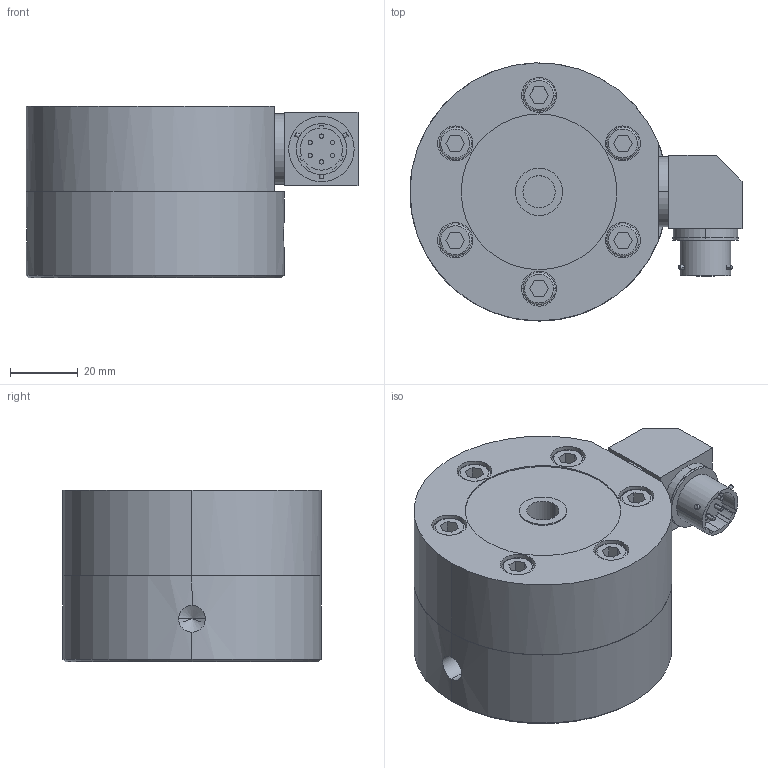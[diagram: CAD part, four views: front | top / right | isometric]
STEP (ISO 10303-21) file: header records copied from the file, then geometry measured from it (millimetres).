
FILE_DESCRIPTION (( 'STEP AP203' ), '1' );
FILE_NAME ('Interface 2420-100-B THRU -1000-B.STEP', '2012-05-23T18:31:29', ( ' ' ), ( '' ), 'SwSTEP 2.0', 'SolidWorks 2002349', '' );
FILE_SCHEMA (( 'CONFIG_CONTROL_DESIGN' ));
Length unit declared in the file: inch
Products named in the file (1): Interface 2420-100-B THRU -1000-B
Bounding box: 98.02 x 76.2 x 50.67 mm (x, y, z)
Volume: 237021.9 mm3; surface area: 28758.4 mm2
Topology: 1 solids, 1 shells, 192 faces, 451 edges, 294 vertices
Faces by surface type: plane 98, cylinder 72, bspline 12, cone 10
Entity records: 5982 total; most frequent: CARTESIAN_POINT 1486, DIRECTION 931, ORIENTED_EDGE 894, EDGE_CURVE 447, AXIS2_PLACEMENT_3D 337, VERTEX_POINT 294, LINE 257, VECTOR 257
